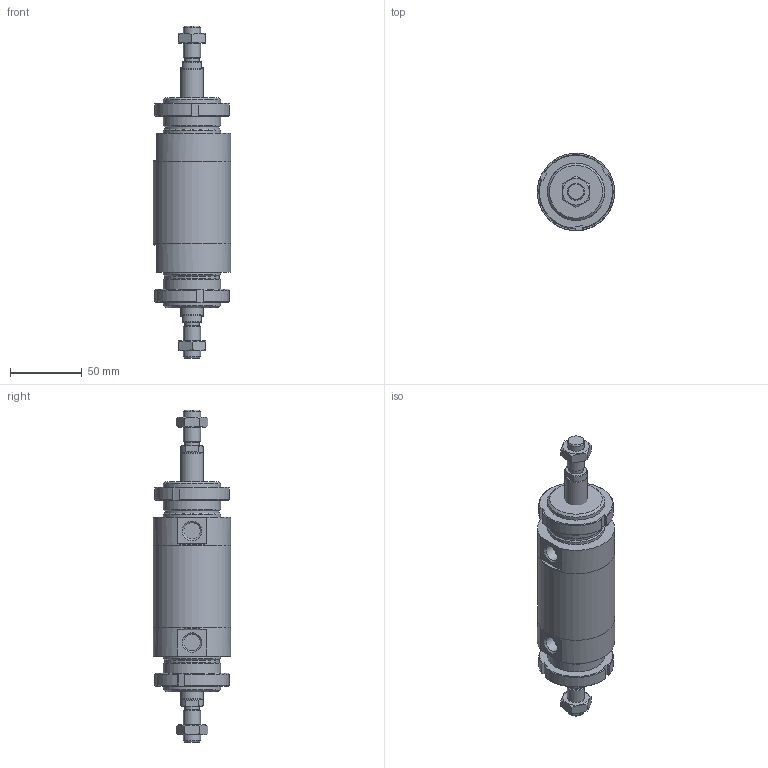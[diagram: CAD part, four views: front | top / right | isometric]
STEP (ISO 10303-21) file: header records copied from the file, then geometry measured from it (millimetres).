
FILE_DESCRIPTION(/* description */ (''),/* implementation_level */ '2;1');
FILE_NAME(/* name */ 'I:\Area Tecnica\Documenti\A-Manieri\_Inventor\12X\12X#S_###_####_#_#\12XCS_050_0015_#_#.stp',/* time_stamp */ '2015-05-08T14:18:25+02:00',/* author */ ('maniean1'),/* organization */ ('Pneumax S.p.A.'),/* preprocessor_version */ 'ST-DEVELOPER v15.2',/* originating_system */ 'Autodesk Inventor 2014',/* authorisation */ '');
FILE_SCHEMA (('AUTOMOTIVE_DESIGN { 1 0 10303 214 3 1 1 }'));
Length unit declared in the file: millimetre
Products named in the file (6): C1250_619-0015; 12X50_604; SP12X50_0015; 12X_50_11; G12X_050_05; 12XCS_050_0015_#_#
Bounding box: 54 x 54 x 232 mm (x, y, z)
Volume: 289273.9 mm3; surface area: 75451.5 mm2
Topology: 8 solids, 8 shells, 133 faces, 304 edges, 195 vertices
Faces by surface type: plane 66, cone 34, cylinder 33
Full cylindrical faces by diameter (mm): 10.2 x2, 11.4 x2, 12 x4, 14 x2, 15.6 x2, 16 x2, 38.2 x2, 40 x6, 50 x2, 54 x3
Entity records: 2300 total; most frequent: CARTESIAN_POINT 435, DIRECTION 388, ORIENTED_EDGE 310, AXIS2_PLACEMENT_3D 166, EDGE_CURVE 155, EDGE_LOOP 130, VERTEX_POINT 117, ADVANCED_FACE 85
